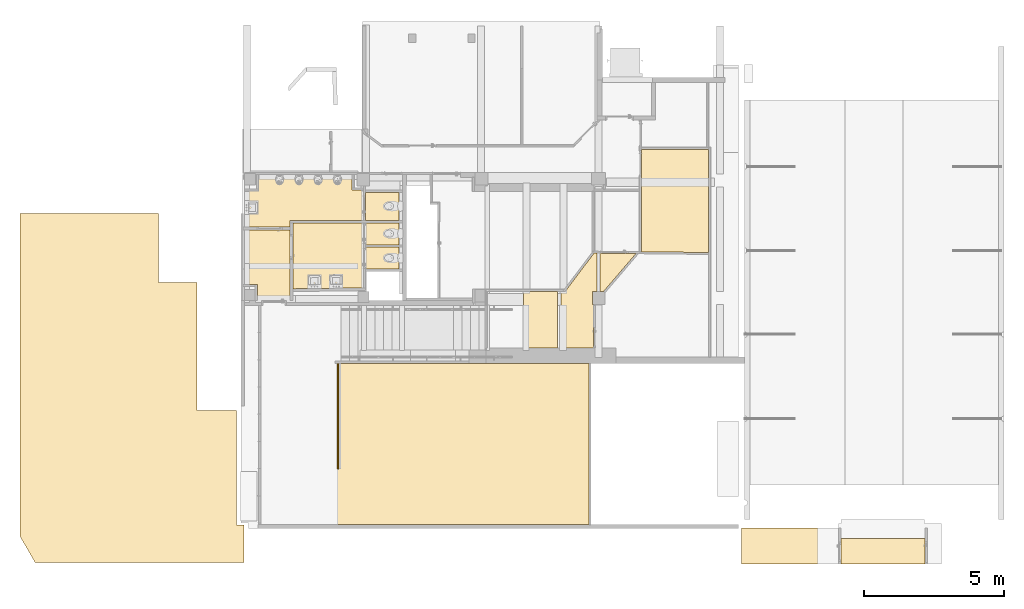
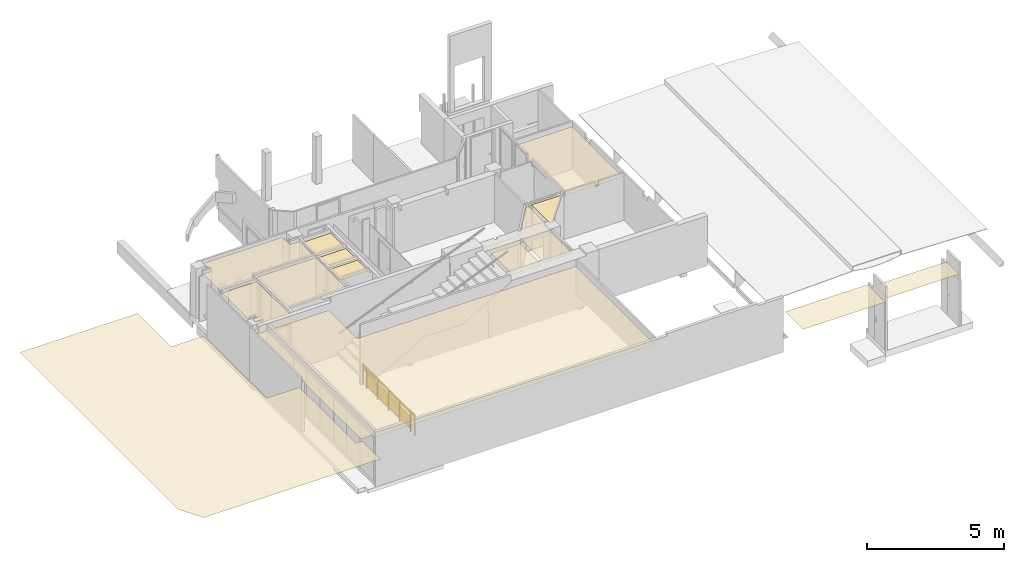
# One storey, part 26 of 32: 13 coverings, 1 railing.
"""IFC4 building model written with IfcOpenShell, lengths in metres."""

from ifc_helpers import new_model, entity, si_unit, converted_unit, derived_unit, direction, frame, origin, place, context, subcontext, project, spatial, indexed_curve, outline, extrude, polygons, material, layer, layer_set, constituent, constituent_set, type_object, element, save


model = new_model("IFC4")

# Units and contexts
model_context = context("Model", 3, precision=1e-05, world=origin(), true_north=direction((6.12303176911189e-17, 1.0)))
body_context = subcontext(model_context, "Body", "Model", "MODEL_VIEW")
ifc_project = project(units=[si_unit("LENGTHUNIT", "METRE"), si_unit("AREAUNIT", "SQUARE_METRE"), si_unit("VOLUMEUNIT", "CUBIC_METRE"), converted_unit("PLANEANGLEUNIT", "DEGREE", entity("IfcRatioMeasure", 0.0174532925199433), si_unit("PLANEANGLEUNIT", "RADIAN"), dimensions=[0, 0, 0, 0, 0, 0, 0]), si_unit("MASSUNIT", "GRAM", prefix="KILO"), derived_unit("MASSDENSITYUNIT", [(si_unit("MASSUNIT", "GRAM", prefix="KILO"), 1), (si_unit("LENGTHUNIT", "METRE"), -3)]), derived_unit("MOMENTOFINERTIAUNIT", [(si_unit("LENGTHUNIT", "METRE"), 4)]), si_unit("TIMEUNIT", "SECOND"), si_unit("FREQUENCYUNIT", "HERTZ"), si_unit("THERMODYNAMICTEMPERATUREUNIT", "DEGREE_CELSIUS"), derived_unit("THERMALTRANSMITTANCEUNIT", [(si_unit("MASSUNIT", "GRAM", prefix="KILO"), 1), (si_unit("THERMODYNAMICTEMPERATUREUNIT", "KELVIN"), -1), (si_unit("TIMEUNIT", "SECOND"), -3)]), derived_unit("VOLUMETRICFLOWRATEUNIT", [(si_unit("LENGTHUNIT", "METRE"), 3), (si_unit("TIMEUNIT", "SECOND"), -1)]), si_unit("ELECTRICCURRENTUNIT", "AMPERE"), si_unit("ELECTRICVOLTAGEUNIT", "VOLT"), si_unit("POWERUNIT", "WATT"), si_unit("FORCEUNIT", "NEWTON", prefix="KILO"), si_unit("ILLUMINANCEUNIT", "LUX"), si_unit("LUMINOUSFLUXUNIT", "LUMEN"), si_unit("LUMINOUSINTENSITYUNIT", "CANDELA"), derived_unit("USERDEFINED", [(si_unit("MASSUNIT", "GRAM", prefix="KILO"), -1), (si_unit("LENGTHUNIT", "METRE"), -2), (si_unit("TIMEUNIT", "SECOND"), 3), (si_unit("LUMINOUSFLUXUNIT", "LUMEN"), 1)]), derived_unit("LINEARVELOCITYUNIT", [(si_unit("LENGTHUNIT", "METRE"), 1), (si_unit("TIMEUNIT", "SECOND"), -1)]), si_unit("PRESSUREUNIT", "PASCAL"), derived_unit("USERDEFINED", [(si_unit("LENGTHUNIT", "METRE"), -2), (si_unit("MASSUNIT", "GRAM", prefix="KILO"), 1), (si_unit("TIMEUNIT", "SECOND"), -2)]), derived_unit("LINEARFORCEUNIT", [(si_unit("MASSUNIT", "GRAM", prefix="KILO"), 1), (si_unit("LENGTHUNIT", "METRE"), 1), (si_unit("TIMEUNIT", "SECOND"), -2), (si_unit("LENGTHUNIT", "METRE"), -1)]), derived_unit("PLANARFORCEUNIT", [(si_unit("MASSUNIT", "GRAM", prefix="KILO"), 1), (si_unit("LENGTHUNIT", "METRE"), 1), (si_unit("TIMEUNIT", "SECOND"), -2), (si_unit("LENGTHUNIT", "METRE"), -2)])], contexts=[model_context])

# Site, building, storey
site_placement = place(None, origin())
site = spatial("IfcSite", under=ifc_project, at=site_placement, Name="Default", CompositionType="ELEMENT")
building_placement = place(site_placement, origin())
building = spatial("IfcBuilding", under=site, at=building_placement, Name="HOTEL CONSULAIRE BOULOGNE SUR MER", CompositionType="ELEMENT")
storey_placement = place(building_placement, frame((0.0, 0.0, -2.70343668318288)))
storey = spatial("IfcBuildingStorey", under=building, at=storey_placement, Name="SS1", CompositionType="ELEMENT", Elevation=-2.70343668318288)

# Coverings
ifc_material_1 = material(Name="Faux-plafond - Trame 600 x 600", Category="Divers")
ifc_layer = layer(ifc_material_1, 0.0, Name="Faux-plafond - Trame 600 x 600", Category="Divers")
ifc_layer_set = layer_set([ifc_layer], Name="Plafond de base:Plafond 600 mm x 1200 mm")
covering_type_1 = type_object("IfcCoveringType", Name="Plafond de base:Plafond 600 mm x 1200 mm", PredefinedType="CEILING")
covering_1_placement = place(storey_placement, frame((-13.4753496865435, -29.2680671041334, 2.16047657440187)))
element("IfcCovering", 1, at=covering_1_placement, inside=storey, type_object=covering_type_1, material=ifc_layer_set, Name="Plafond de base:Plafond 600 mm x 1200 mm", ObjectType="Plafond de base:Plafond 600 mm x 1200 mm", PredefinedType="CEILING", context=body_context, shape_type="Tessellation", body=[
    polygons([(1.73258740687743e-14, 12.4434828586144, 0.0), (0.0, 0.940503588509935, 0.0), (0.543, 3.0320279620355e-14, 0.0), (7.98066030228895, 0.0, 0.0), (7.98066030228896, 1.3427933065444, 0.0), (7.71314393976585, 1.3427933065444, 0.0), (7.71314393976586, 5.43348285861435, 0.0), (6.32136111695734, 5.43348285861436, 0.0), (6.32136111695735, 9.99781708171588, 0.0), (4.939911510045, 9.99781708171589, 0.0), (4.93991151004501, 12.4434828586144, 0.0)], [[[10, 11, 1, 2, 3, 4, 5, 6, 7, 8, 9]]], closed=True),
])
covering_type_2 = type_object("IfcCoveringType", Name="Plafond de base:Plafond 600 mm x 1200 mm", PredefinedType="CEILING")
covering_2_placement = place(storey_placement, frame((-5.46198856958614, -27.916273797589, 2.13100000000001)))
element("IfcCovering", 2, at=covering_2_placement, inside=storey, type_object=covering_type_2, material=ifc_layer_set, Name="Plafond de base:Plafond 600 mm x 1200 mm", ObjectType="Plafond de base:Plafond 600 mm x 1200 mm", PredefinedType="CEILING", context=body_context, shape_type="Tessellation", body=[
    polygons([(12.2817160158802, 0.0, 0.0), (12.2817160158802, 5.74589604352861, 0.0), (3.0834917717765, 5.74589604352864, 0.0), (3.0834917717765, 7.8213594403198, 0.0), (1.62430069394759e-14, 7.82135944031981, 0.0), (1.08286712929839e-15, 0.141000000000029, 0.0), (0.467299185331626, 0.141000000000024, 0.0), (0.467299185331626, 3.89832166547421e-14, 0.0)], [[[3, 4, 5, 6, 7, 8, 1, 2]]], closed=True),
])
covering_type_3 = type_object("IfcCoveringType", Name="Plafond de base:Plafond 600 mm x 1200 mm", PredefinedType="CEILING")
covering_3_placement = place(storey_placement, frame((12.2592268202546, -29.3180671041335, 1.74827539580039)))
element("IfcCovering", 3, at=covering_3_placement, inside=storey, type_object=covering_type_3, material=ifc_layer_set, Name="Plafond de base:Plafond 600 mm x 1200 mm", ObjectType="Plafond de base:Plafond 600 mm x 1200 mm", PredefinedType="CEILING", context=body_context, shape_type="Tessellation", body=[
    polygons([(0.0, 1.29944055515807e-14, 0.0), (3.4606787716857, 0.0, 0.0), (3.4606787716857, 1.29424399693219, 0.0), (2.16573425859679e-15, 1.2942439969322, 0.0)], [[[4, 1, 2, 3]]], closed=True),
])
covering_type_4 = type_object("IfcCoveringType", Name="Plafond de base:Plafond 600 mm x 1200 mm", PredefinedType="CEILING")
covering_4_placement = place(storey_placement, frame((8.68460395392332, -18.2083637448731, 2.207)))
element("IfcCovering", 4, at=covering_4_placement, inside=storey, type_object=covering_type_4, material=ifc_layer_set, Name="Plafond de base:Plafond 600 mm x 1200 mm", ObjectType="Plafond de base:Plafond 600 mm x 1200 mm", PredefinedType="CEILING", context=body_context, shape_type="Tessellation", body=[
    polygons([(4.33146851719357e-15, 3.68415201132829, 0.0), (-1.08286712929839e-15, 0.0281977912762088, 0.0), (2.39762286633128, 2.16573425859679e-15, 0.0), (2.39762286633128, 3.68415201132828, 0.0)], [[[1, 2, 3, 4]]], closed=True),
])
covering_type_5 = type_object("IfcCoveringType", Name="Plafond de base:Plafond 600 mm x 1200 mm", PredefinedType="CEILING")
covering_5_placement = place(storey_placement, frame((4.477773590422, -21.6103777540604, 2.23784166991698)))
element("IfcCovering", 5, at=covering_5_placement, inside=storey, type_object=covering_type_5, material=ifc_layer_set, Name="Plafond de base:Plafond 600 mm x 1200 mm", ObjectType="Plafond de base:Plafond 600 mm x 1200 mm", PredefinedType="CEILING", context=body_context, shape_type="Tessellation", body=[
    polygons([(5.41433564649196e-16, 4.33146851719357e-15, 0.0), (1.22, 0.0, 0.0), (1.22, 2.01905368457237, 0.0), (3.24860138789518e-15, 2.01905368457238, 0.0)], [[[4, 1, 2, 3]]], closed=True),
])
covering_type_6 = type_object("IfcCoveringType", Name="Plafond de base:Plafond 600 mm x 1200 mm", PredefinedType="CEILING")
covering_6_placement = place(storey_placement, frame((5.817773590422, -21.6103777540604, 2.306)))
element("IfcCovering", 6, at=covering_6_placement, inside=storey, type_object=covering_type_6, material=ifc_layer_set, Name="Plafond de base:Plafond 600 mm x 1200 mm", ObjectType="Plafond de base:Plafond 600 mm x 1200 mm", PredefinedType="CEILING", context=body_context, shape_type="Tessellation", body=[
    polygons([(0.0, 4.33146851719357e-15, 0.0), (1.15915328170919, 0.0, 0.0), (1.1591532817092, 1.55617773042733, 0.0), (1.12360959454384, 1.55617773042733, 0.0), (1.12360959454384, 2.00617773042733, 0.0), (1.28136361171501, 2.00617773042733, 0.0), (1.28136361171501, 3.37885320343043, 0.0), (1.17844694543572, 3.38006357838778, 0.0), (0.15285242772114, 2.01905368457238, 0.0), (3.24860138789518e-15, 2.01905368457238, 0.0)], [[[1, 2, 3, 4, 5, 6, 7, 8, 9, 10]]], closed=True),
])
covering_type_7 = type_object("IfcCoveringType", Name="Plafond de base:Plafond 600 mm x 1200 mm", PredefinedType="CEILING")
covering_7_placement = place(storey_placement, frame((7.21913720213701, -19.6042000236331, 2.32638721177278)))
element("IfcCovering", 7, at=covering_7_placement, inside=storey, type_object=covering_type_7, material=ifc_layer_set, Name="Plafond de base:Plafond 600 mm x 1200 mm", ObjectType="Plafond de base:Plafond 600 mm x 1200 mm", PredefinedType="CEILING", context=body_context, shape_type="Tessellation", body=[
    polygons([(0.0, 0.0, 0.0), (0.114661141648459, 0.0, 0.0), (1.27270710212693, 1.35629622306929, 0.0), (3.24860138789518e-15, 1.37126418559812, 0.0)], [[[4, 1, 2, 3]]], closed=True),
])
covering_type_8 = type_object("IfcCoveringType", Name="Plafond de base:Plafond 600 mm x 1200 mm", PredefinedType="CEILING")
covering_8_placement = place(storey_placement, frame((-5.30450814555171, -17.2991387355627, 2.29009074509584)))
element("IfcCovering", 8, at=covering_8_placement, inside=storey, type_object=covering_type_8, material=ifc_layer_set, Name="Plafond de base:Plafond 600 mm x 1200 mm", ObjectType="Plafond de base:Plafond 600 mm x 1200 mm", PredefinedType="CEILING", context=body_context, shape_type="Tessellation", body=[
    polygons([(0.0, 4.33146851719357e-15, 0.0), (1.4628088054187, 0.0, 0.0), (1.4628088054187, 0.230224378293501, 0.0), (4.07568491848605, 0.230224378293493, 0.0), (4.07568491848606, 1.32090532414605, 0.0), (3.67804247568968, 1.32090532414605, 0.0), (3.67804247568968, 1.86851570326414, 0.0), (0.34251641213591, 1.86851570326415, 0.0), (0.342516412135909, 1.28231953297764, 0.0), (2.16573425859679e-15, 1.28231953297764, 0.0)], [[[9, 10, 1, 2, 3, 4, 5, 6, 7, 8]]], closed=True),
])
covering_type_9 = type_object("IfcCoveringType", Name="Plafond de base:Plafond 600 mm x 1200 mm", PredefinedType="CEILING")
covering_9_placement = place(storey_placement, frame((-1.14882322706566, -17.0689143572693, 2.2688768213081)))
element("IfcCovering", 9, at=covering_9_placement, inside=storey, type_object=covering_type_9, material=ifc_layer_set, Name="Plafond de base:Plafond 600 mm x 1200 mm", ObjectType="Plafond de base:Plafond 600 mm x 1200 mm", PredefinedType="CEILING", context=body_context, shape_type="Tessellation", body=[
    polygons([(0.0, 4.33146851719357e-15, 0.0), (1.1863633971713, 0.0, 0.0), (1.1863633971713, 1.01068094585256, 0.0), (1.48894230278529e-15, 1.01068094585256, 0.0)], [[[4, 1, 2, 3]]], closed=True),
])
covering_type_10 = type_object("IfcCoveringType", Name="Plafond de base:Plafond 600 mm x 1200 mm", PredefinedType="CEILING")
covering_10_placement = place(storey_placement, frame((-5.30450814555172, -19.9149143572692, 2.28223690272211)))
element("IfcCovering", 10, at=covering_10_placement, inside=storey, type_object=covering_type_10, material=ifc_layer_set, Name="Plafond de base:Plafond 600 mm x 1200 mm", ObjectType="Plafond de base:Plafond 600 mm x 1200 mm", PredefinedType="CEILING", context=body_context, shape_type="Tessellation", body=[
    polygons([(2.16573425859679e-15, 2.5157756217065, 0.0), (0.0, 0.573597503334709, 0.0), (0.296282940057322, 0.573597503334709, 0.0), (0.296282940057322, 4.33146851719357e-15, 0.0), (1.4628088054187, 0.0, 0.0), (1.4628088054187, 2.5157756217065, 0.0)], [[[3, 4, 5, 6, 1, 2]]], closed=True),
])
covering_type_11 = type_object("IfcCoveringType", Name="Plafond de base:Plafond 600 mm x 1200 mm", PredefinedType="CEILING")
covering_11_placement = place(storey_placement, frame((-3.74169934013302, -19.5009756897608, 2.28223690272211)))
element("IfcCovering", 11, at=covering_11_placement, inside=storey, type_object=covering_type_11, material=ifc_layer_set, Name="Plafond de base:Plafond 600 mm x 1200 mm", ObjectType="Plafond de base:Plafond 600 mm x 1200 mm", PredefinedType="CEILING", context=body_context, shape_type="Tessellation", body=[
    polygons([(3.24860138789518e-15, 2.34206133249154, 0.0), (0.0, 0.0, 0.0), (2.51287611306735, 0.0327167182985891, 0.0), (2.51287611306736, 2.34206133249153, 0.0)], [[[1, 2, 3, 4]]], closed=True),
])
covering_type_12 = type_object("IfcCoveringType", Name="Plafond de base:Plafond 600 mm x 1200 mm", PredefinedType="CEILING")
covering_12_placement = place(storey_placement, frame((-1.14882322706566, -18.802909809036, 2.25050000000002)))
element("IfcCovering", 12, at=covering_12_placement, inside=storey, type_object=covering_type_12, material=ifc_layer_set, Name="Plafond de base:Plafond 600 mm x 1200 mm", ObjectType="Plafond de base:Plafond 600 mm x 1200 mm", PredefinedType="CEILING", context=body_context, shape_type="Tessellation", body=[
    polygons([(1.21822552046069e-15, 0.788773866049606, 0.0), (0.0, 2.16573425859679e-15, 0.0), (1.1863633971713, 0.0, 0.0), (1.1863633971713, 0.788773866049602, 0.0)], [[[1, 2, 3, 4]]], closed=True),
    polygons([(1.1863633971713, 1.64399545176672, 0.0), (2.57180943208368e-15, 1.64399545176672, 0.0), (1.21822552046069e-15, 0.868773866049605, 0.0), (1.1863633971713, 0.868773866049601, 0.0)], [[[2, 3, 4, 1]]], closed=True),
])
covering_type_13 = type_object("IfcCoveringType", Name="Plafond de base:Plafond 600 mm x 1200 mm", PredefinedType="CEILING")
covering_13_placement = place(storey_placement, frame((15.8099055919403, -29.3180671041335, 1.90799999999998)))
element("IfcCovering", 13, at=covering_13_placement, inside=storey, type_object=covering_type_13, material=ifc_layer_set, Name="Plafond de base:Plafond 600 mm x 1200 mm", ObjectType="Plafond de base:Plafond 600 mm x 1200 mm", PredefinedType="CEILING", context=body_context, shape_type="Tessellation", body=[
    polygons([(2.16573425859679e-15, 0.914243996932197, 0.0), (0.0, 8.66293703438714e-15, 0.0), (2.99344604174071, 0.0, 0.0), (2.99344604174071, 0.914243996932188, 0.0)], [[[1, 2, 3, 4]]], closed=True),
])

# Railing
ifc_material_2 = material(Name="Métal - Acier inoxydable, poli", Category="Métal")
ifc_constituent_1 = constituent(ifc_material_2, Name="Métal - Acier inoxydable, poli", Category="Matériaux")
ifc_material_3 = material(Name="Verre", Category="Verre")
ifc_constituent_2 = constituent(ifc_material_3, Name="Verre", Category="Matériaux")
ifc_constituent_set = constituent_set(constituents=[ifc_constituent_1, ifc_constituent_2], Name="MaterialConstituentSet")
railing_placement = place(storey_placement, frame((-2.1749131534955, -25.938273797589, 0.0)))
element("IfcRailing", 14, at=railing_placement, inside=storey, material=ifc_constituent_set, Name="Garde-corps:Remplissage Inférieur", ObjectType="Garde-corps:Remplissage Inférieur", PredefinedType="NOTDEFINED", context=body_context, shape_type="SweptSolid", body=[
    extrude(outline(indexed_curve([(-0.025, -0.00600000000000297), (0.025, -0.00600000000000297), (0.025, 0.00599999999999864), (-0.025, 0.00599999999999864), (-0.025, -0.00600000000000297)], self_intersect=False)), frame((0.0409860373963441, 3.48652737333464, 0.0)), (0.0, 0.0, 1.0), 0.86984653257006),
    extrude(outline(indexed_curve([(-0.00250000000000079, -0.4), (0.00249999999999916, -0.4), (0.00250000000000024, 0.399999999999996), (-0.00249999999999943, 0.399999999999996), (-0.00250000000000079, -0.4)], self_intersect=False)), frame((0.045210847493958, 3.08652737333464, 0.100000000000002)), (0.0, 0.0, 1.0), 0.58),
    extrude(outline(indexed_curve([(-0.0250000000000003, -0.00600000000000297), (0.0249999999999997, -0.00600000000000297), (0.0249999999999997, 0.00599999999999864), (-0.0250000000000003, 0.00599999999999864), (-0.0250000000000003, -0.00600000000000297)], self_intersect=False)), frame((0.0409860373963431, 2.68652737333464, 0.0)), (0.0, 0.0, 1.0), 0.86984653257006),
    extrude(outline(indexed_curve([(-0.00250000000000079, -0.399999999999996), (0.00249999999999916, -0.399999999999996), (0.00250000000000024, 0.4), (-0.00249999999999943, 0.4), (-0.00250000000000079, -0.399999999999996)], self_intersect=False)), frame((0.0452108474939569, 2.28652737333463, 0.100000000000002)), (0.0, 0.0, 1.0), 0.58),
    extrude(outline(indexed_curve([(-0.025, -0.00600000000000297), (0.025, -0.00600000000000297), (0.025, 0.00599999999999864), (-0.025, 0.00599999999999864), (-0.025, -0.00600000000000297)], self_intersect=False)), frame((0.0409860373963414, 1.88652737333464, 0.0)), (0.0, 0.0, 1.0), 0.86984653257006),
    extrude(outline(indexed_curve([(-0.00250000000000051, -0.4), (0.00249999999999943, -0.4), (0.00250000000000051, 0.399999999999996), (-0.00249999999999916, 0.399999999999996), (-0.00250000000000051, -0.4)], self_intersect=False)), frame((0.0452108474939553, 1.48652737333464, 0.100000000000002)), (0.0, 0.0, 1.0), 0.58),
    extrude(outline(indexed_curve([(-0.025, -0.00600000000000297), (0.025, -0.00600000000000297), (0.025, 0.00599999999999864), (-0.025, 0.00599999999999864), (-0.025, -0.00600000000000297)], self_intersect=False)), frame((0.0409860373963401, 1.08652737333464, 0.0)), (0.0, 0.0, 1.0), 0.86984653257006),
    extrude(outline(indexed_curve([(-0.00250000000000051, -0.399999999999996), (0.00249999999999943, -0.399999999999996), (0.00250000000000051, 0.4), (-0.00249999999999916, 0.4), (-0.00250000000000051, -0.399999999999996)], self_intersect=False)), frame((0.0452108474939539, 0.686527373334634, 0.100000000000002)), (0.0, 0.0, 1.0), 0.58),
    extrude(outline(indexed_curve([(-0.025, -0.00600000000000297), (0.025, -0.00600000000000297), (0.025, 0.00599999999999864), (-0.025, 0.00599999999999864), (-0.025, -0.00600000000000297)], self_intersect=False)), frame((0.0409860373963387, 0.286527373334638, 0.0)), (0.0, 0.0, 1.0), 0.86984653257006),
    extrude(outline(indexed_curve([(-0.025, -0.00600000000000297), (0.025, -0.00600000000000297), (0.025, 0.00599999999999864), (-0.025, 0.00599999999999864), (-0.025, -0.00600000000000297)], self_intersect=False)), frame((0.0409860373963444, 3.76705474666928, 0.0)), (0.0, 0.0, 1.0), 0.86984653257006),
    extrude(outline(indexed_curve([(-0.0250000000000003, -0.00599999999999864), (0.0249999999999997, -0.00599999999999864), (0.0249999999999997, 0.00600000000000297), (-0.0250000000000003, 0.00600000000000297), (-0.0250000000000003, -0.00599999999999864)], self_intersect=False)), frame((0.0409860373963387, 0.00599999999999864, 0.0)), (0.0, 0.0, 1.0), 0.86984653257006),
    extrude(outline(indexed_curve([(-1.88252737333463, -0.01), (1.88252737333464, -0.01), (1.88252737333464, 0.01), (-1.88252737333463, 0.01), (-1.88252737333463, -0.01)], self_intersect=False)), frame((0.0409860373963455, 1.88652737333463, 0.780000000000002), z_axis=(0.0, 0.0, 1.0), x_axis=(0.0, 1.0, 0.0)), (0.0, 0.0, 1.0), 0.0200000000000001),
    extrude(outline(indexed_curve([(-1.88252737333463, -0.01), (1.88252737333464, -0.01), (1.88252737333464, 0.01), (-1.88252737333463, 0.01), (-1.88252737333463, -0.01)], self_intersect=False)), frame((0.0409860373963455, 1.88652737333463, 0.680000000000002), z_axis=(0.0, 0.0, 1.0), x_axis=(0.0, 1.0, 0.0)), (0.0, 0.0, 1.0), 0.0200000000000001),
    extrude(outline(indexed_curve([(-0.0109067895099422, -0.0384843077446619), (0.00177588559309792, -0.0384843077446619), (0.0141514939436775, -0.0318300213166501), (0.0240801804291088, -0.0196720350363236), (0.0298451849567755, -0.00411257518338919), (0.0304496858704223, 0.0121579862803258), (0.0257891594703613, 0.0263263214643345), (0.0166694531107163, 0.0359425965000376), (0.0109067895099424, 0.0384843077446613), (-0.00177588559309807, 0.0384843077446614), (-0.0141514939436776, 0.0318300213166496), (-0.0240801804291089, 0.0196720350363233), (-0.0298451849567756, 0.00411257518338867), (-0.0304496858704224, -0.0121579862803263), (-0.0257891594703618, -0.026326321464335), (-0.0166694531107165, -0.0359425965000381), (-0.0109067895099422, -0.0384843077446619)], self_intersect=False)), frame((0.0415952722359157, 0.00399999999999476, 0.900000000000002), z_axis=(0.0, 1.0, 0.0), x_axis=(-0.27266973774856, 0.0, -0.962107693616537)), (0.0, 0.0, 1.0), 3.76505474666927),
])

save(model, "model.ifc")
